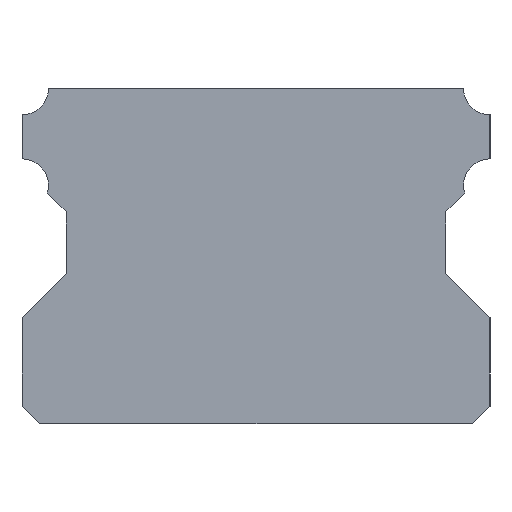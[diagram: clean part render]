
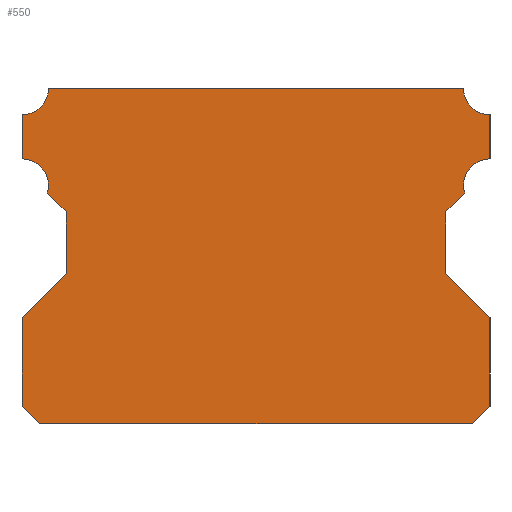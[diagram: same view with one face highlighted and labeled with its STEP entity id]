
A CAD part, left-side view. The second image highlights one B-rep face of the part: STEP entity #550.
In plain terms, the highlighted planar face has unit normal (-1, 0, 0).
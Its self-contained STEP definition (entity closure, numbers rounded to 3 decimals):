
#51=CIRCLE($,#589,3.);
#52=CIRCLE($,#590,3.);
#53=CIRCLE($,#591,3.);
#54=CIRCLE($,#592,3.);
#79=FACE_OUTER_BOUND($,#113,.T.);
#113=EDGE_LOOP($,(#393,#394,#395,#396,#397,#398,#399,#400,#401,#402,#403,
#404,#405,#406,#407,#408,#409,#410));
#169=LINE($,#825,#215);
#171=LINE($,#829,#217);
#174=LINE($,#835,#220);
#175=LINE($,#837,#221);
#176=LINE($,#839,#222);
#177=LINE($,#841,#223);
#178=LINE($,#843,#224);
#179=LINE($,#845,#225);
#180=LINE($,#849,#226);
#181=LINE($,#853,#227);
#182=LINE($,#857,#228);
#183=LINE($,#861,#229);
#184=LINE($,#863,#230);
#185=LINE($,#864,#231);
#215=VECTOR($,#653,2.828);
#217=VECTOR($,#657,10.);
#220=VECTOR($,#662,49.);
#221=VECTOR($,#663,2.828);
#222=VECTOR($,#664,10.);
#223=VECTOR($,#665,7.071);
#224=VECTOR($,#666,7.);
#225=VECTOR($,#667,3.011);
#226=VECTOR($,#670,5.);
#227=VECTOR($,#673,47.);
#228=VECTOR($,#676,5.);
#229=VECTOR($,#679,3.011);
#230=VECTOR($,#680,7.);
#231=VECTOR($,#681,7.071);
#261=VERTEX_POINT($,#822);
#262=VERTEX_POINT($,#824);
#263=VERTEX_POINT($,#828);
#265=VERTEX_POINT($,#834);
#266=VERTEX_POINT($,#836);
#267=VERTEX_POINT($,#838);
#268=VERTEX_POINT($,#840);
#269=VERTEX_POINT($,#842);
#270=VERTEX_POINT($,#844);
#271=VERTEX_POINT($,#846);
#272=VERTEX_POINT($,#848);
#273=VERTEX_POINT($,#850);
#274=VERTEX_POINT($,#852);
#275=VERTEX_POINT($,#854);
#276=VERTEX_POINT($,#856);
#277=VERTEX_POINT($,#858);
#278=VERTEX_POINT($,#860);
#279=VERTEX_POINT($,#862);
#315=EDGE_CURVE($,#261,#262,#169,.T.);
#317=EDGE_CURVE($,#262,#263,#171,.T.);
#320=EDGE_CURVE($,#265,#261,#174,.T.);
#321=EDGE_CURVE($,#266,#265,#175,.T.);
#322=EDGE_CURVE($,#267,#266,#176,.T.);
#323=EDGE_CURVE($,#268,#267,#177,.T.);
#324=EDGE_CURVE($,#269,#268,#178,.T.);
#325=EDGE_CURVE($,#270,#269,#179,.T.);
#326=EDGE_CURVE($,#271,#270,#51,.T.);
#327=EDGE_CURVE($,#272,#271,#180,.T.);
#328=EDGE_CURVE($,#273,#272,#52,.T.);
#329=EDGE_CURVE($,#274,#273,#181,.T.);
#330=EDGE_CURVE($,#275,#274,#53,.T.);
#331=EDGE_CURVE($,#276,#275,#182,.T.);
#332=EDGE_CURVE($,#277,#276,#54,.T.);
#333=EDGE_CURVE($,#278,#277,#183,.T.);
#334=EDGE_CURVE($,#279,#278,#184,.T.);
#335=EDGE_CURVE($,#263,#279,#185,.T.);
#393=ORIENTED_EDGE($,*,*,#315,.F.);
#394=ORIENTED_EDGE($,*,*,#320,.F.);
#395=ORIENTED_EDGE($,*,*,#321,.F.);
#396=ORIENTED_EDGE($,*,*,#322,.F.);
#397=ORIENTED_EDGE($,*,*,#323,.F.);
#398=ORIENTED_EDGE($,*,*,#324,.F.);
#399=ORIENTED_EDGE($,*,*,#325,.F.);
#400=ORIENTED_EDGE($,*,*,#326,.F.);
#401=ORIENTED_EDGE($,*,*,#327,.F.);
#402=ORIENTED_EDGE($,*,*,#328,.F.);
#403=ORIENTED_EDGE($,*,*,#329,.F.);
#404=ORIENTED_EDGE($,*,*,#330,.F.);
#405=ORIENTED_EDGE($,*,*,#331,.F.);
#406=ORIENTED_EDGE($,*,*,#332,.F.);
#407=ORIENTED_EDGE($,*,*,#333,.F.);
#408=ORIENTED_EDGE($,*,*,#334,.F.);
#409=ORIENTED_EDGE($,*,*,#335,.F.);
#410=ORIENTED_EDGE($,*,*,#317,.F.);
#531=PLANE($,#588);
#550=ADVANCED_FACE($,(#79),#531,.F.);
#588=AXIS2_PLACEMENT_3D($,#833,#660,#661);
#589=AXIS2_PLACEMENT_3D($,#847,#668,#669);
#590=AXIS2_PLACEMENT_3D($,#851,#671,#672);
#591=AXIS2_PLACEMENT_3D($,#855,#674,#675);
#592=AXIS2_PLACEMENT_3D($,#859,#677,#678);
#653=DIRECTION($,(0.,0.707,0.707));
#657=DIRECTION($,(0.,0.,1.));
#660=DIRECTION('center_axis',(1.,0.,0.));
#661=DIRECTION('ref_axis',(0.,0.,-1.));
#662=DIRECTION($,(0.,1.,0.));
#663=DIRECTION($,(0.,0.707,-0.707));
#664=DIRECTION($,(0.,0.,-1.));
#665=DIRECTION($,(0.,-0.707,-0.707));
#666=DIRECTION($,(0.,0.,-1.));
#667=DIRECTION($,(0.,0.707,-0.707));
#668=DIRECTION('center_axis',(-1.,0.,0.));
#669=DIRECTION('ref_axis',(0.,-0.957,0.29));
#670=DIRECTION($,(0.,0.,-1.));
#671=DIRECTION('center_axis',(-1.,0.,0.));
#672=DIRECTION('ref_axis',(0.,0.,1.));
#673=DIRECTION($,(0.,-1.,0.));
#674=DIRECTION('center_axis',(-1.,0.,0.));
#675=DIRECTION('ref_axis',(0.,1.,0.));
#676=DIRECTION($,(0.,0.,1.));
#677=DIRECTION('center_axis',(-1.,0.,0.));
#678=DIRECTION('ref_axis',(0.,0.,-1.));
#679=DIRECTION($,(0.,0.707,0.707));
#680=DIRECTION($,(0.,0.,1.));
#681=DIRECTION($,(0.,-0.707,0.707));
#822=CARTESIAN_POINT('',(0.,51.,0.));
#824=CARTESIAN_POINT('',(0.,53.,2.));
#825=CARTESIAN_POINT($,(0.,49.994,-1.006));
#828=CARTESIAN_POINT('',(0.,53.,12.));
#829=CARTESIAN_POINT($,(0.,53.,0.));
#833=CARTESIAN_POINT('Origin',(0.,26.5,18.476));
#834=CARTESIAN_POINT('',(0.,2.,0.));
#835=CARTESIAN_POINT($,(0.,0.,0.));
#836=CARTESIAN_POINT('',(0.,0.,2.));
#837=CARTESIAN_POINT($,(0.,3.006,-1.006));
#838=CARTESIAN_POINT('',(0.,0.,12.));
#839=CARTESIAN_POINT($,(0.,0.,12.));
#840=CARTESIAN_POINT('',(0.,5.,17.));
#841=CARTESIAN_POINT($,(0.,5.,17.));
#842=CARTESIAN_POINT('',(0.,5.,24.));
#843=CARTESIAN_POINT($,(0.,5.,24.));
#844=CARTESIAN_POINT('',(0.,2.871,26.129));
#845=CARTESIAN_POINT($,(0.,2.871,26.129));
#846=CARTESIAN_POINT('',(0.,0.,30.));
#847=CARTESIAN_POINT('Origin',(0.,0.,27.));
#848=CARTESIAN_POINT('',(0.,0.,35.));
#849=CARTESIAN_POINT($,(0.,0.,35.));
#850=CARTESIAN_POINT('',(0.,3.,38.));
#851=CARTESIAN_POINT('Origin',(0.,0.,38.));
#852=CARTESIAN_POINT('',(0.,50.,38.));
#853=CARTESIAN_POINT($,(0.,50.,38.));
#854=CARTESIAN_POINT('',(0.,53.,35.));
#855=CARTESIAN_POINT('Origin',(0.,53.,38.));
#856=CARTESIAN_POINT('',(0.,53.,30.));
#857=CARTESIAN_POINT($,(0.,53.,30.));
#858=CARTESIAN_POINT('',(0.,50.129,26.129));
#859=CARTESIAN_POINT('Origin',(0.,53.,27.));
#860=CARTESIAN_POINT('',(0.,48.,24.));
#861=CARTESIAN_POINT($,(0.,48.,24.));
#862=CARTESIAN_POINT('',(0.,48.,17.));
#863=CARTESIAN_POINT($,(0.,48.,17.));
#864=CARTESIAN_POINT($,(0.,53.,12.));
